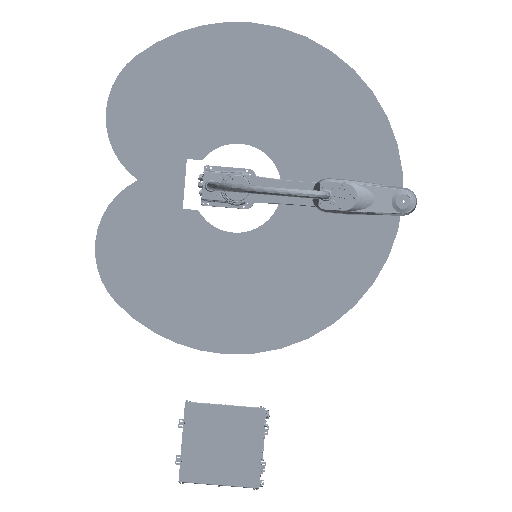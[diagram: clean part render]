
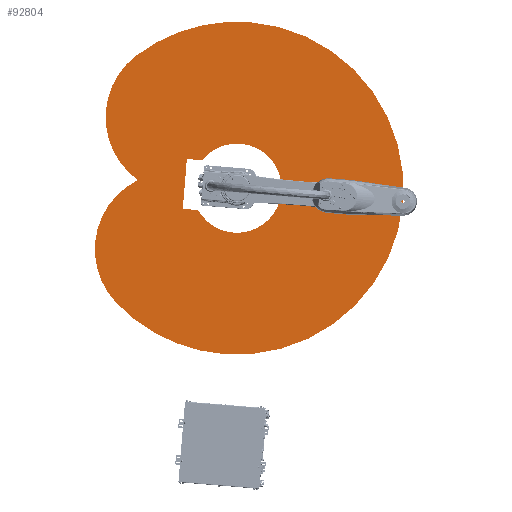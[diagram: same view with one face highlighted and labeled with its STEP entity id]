
A CAD part, left-side view. The second image highlights one B-rep face of the part: STEP entity #92804.
In plain terms, the highlighted planar face has unit normal (-1, 0, 0) as drawn and (0, 1, 0) by its records, which use the part's own axes.
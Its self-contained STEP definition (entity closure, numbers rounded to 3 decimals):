
#5851 = DIRECTION ( 'NONE',  ( 0., 0., -1. ) ) ;
#9800 = EDGE_CURVE ( 'NONE', #416872, #17749, #360652, .T. ) ;
#12896 = CIRCLE ( 'NONE', #216737, 187.5 ) ;
#15422 = CARTESIAN_POINT ( 'NONE',  ( 0., 170., 0. ) ) ;
#15478 = CIRCLE ( 'NONE', #444313, 700. ) ;
#17749 = VERTEX_POINT ( 'NONE', #383170 ) ;
#22960 = DIRECTION ( 'NONE',  ( 0., 1., 0. ) ) ;
#26754 = DIRECTION ( 'NONE',  ( 0., 0., 1. ) ) ;
#27554 = EDGE_CURVE ( 'NONE', #52899, #290477, #323441, .T. ) ;
#35064 = CARTESIAN_POINT ( 'NONE',  ( 418.145, 170., 0. ) ) ;
#37969 = EDGE_LOOP ( 'NONE', ( #105220, #199074, #43693, #170447, #138174 ) ) ;
#38513 = CIRCLE ( 'NONE', #58667, 325. ) ;
#38545 = CARTESIAN_POINT ( 'NONE',  ( 155.342, 170., -105. ) ) ;
#43693 = ORIENTED_EDGE ( 'NONE', *, *, #254679, .T. ) ;
#46174 = DIRECTION ( 'NONE',  ( 0., 1., 0. ) ) ;
#52899 = VERTEX_POINT ( 'NONE', #171419 ) ;
#58667 = AXIS2_PLACEMENT_3D ( 'NONE', #459032, #46174, #124944 ) ;
#62542 = ORIENTED_EDGE ( 'NONE', *, *, #235068, .F. ) ;
#66847 = EDGE_CURVE ( 'NONE', #449164, #140479, #80492, .T. ) ;
#71018 = CARTESIAN_POINT ( 'NONE',  ( 0., 170., 0. ) ) ;
#79991 = CARTESIAN_POINT ( 'NONE',  ( 220., 170., -105. ) ) ;
#80492 = LINE ( 'NONE', #191523, #233486 ) ;
#92804 = ADVANCED_FACE ( 'NONE', ( #102926, #214854 ), #228081, .F. ) ;
#102767 = CARTESIAN_POINT ( 'NONE',  ( 0., 170., 187.5 ) ) ;
#102926 = FACE_OUTER_BOUND ( 'NONE', #37969, .T. ) ;
#105220 = ORIENTED_EDGE ( 'NONE', *, *, #108407, .T. ) ;
#108407 = EDGE_CURVE ( 'NONE', #449383, #416872, #38513, .T. ) ;
#112898 = CARTESIAN_POINT ( 'NONE',  ( 125.462, 170., 139.34 ) ) ;
#118865 = EDGE_CURVE ( 'NONE', #465531, #434274, #15478, .T. ) ;
#119853 = CARTESIAN_POINT ( 'NONE',  ( 250.924, 170., -278.679 ) ) ;
#121213 = CARTESIAN_POINT ( 'NONE',  ( 220., 170., 105. ) ) ;
#124944 = DIRECTION ( 'NONE',  ( 0., 0., -1. ) ) ;
#133793 = AXIS2_PLACEMENT_3D ( 'NONE', #267097, #383888, #309788 ) ;
#136080 = AXIS2_PLACEMENT_3D ( 'NONE', #210368, #22960, #363484 ) ;
#138174 = ORIENTED_EDGE ( 'NONE', *, *, #452558, .T. ) ;
#140479 = VERTEX_POINT ( 'NONE', #79991 ) ;
#143314 = DIRECTION ( 'NONE',  ( 0., 1., 0. ) ) ;
#149151 = AXIS2_PLACEMENT_3D ( 'NONE', #119853, #192209, #154499 ) ;
#154499 = DIRECTION ( 'NONE',  ( 0., 0., 1. ) ) ;
#166781 = VERTEX_POINT ( 'NONE', #102767 ) ;
#169425 = EDGE_CURVE ( 'NONE', #364707, #449164, #335396, .T. ) ;
#170447 = ORIENTED_EDGE ( 'NONE', *, *, #118865, .T. ) ;
#170504 = VECTOR ( 'NONE', #440986, 1000. ) ;
#171419 = CARTESIAN_POINT ( 'NONE',  ( 155.342, 170., -105. ) ) ;
#176625 = CARTESIAN_POINT ( 'NONE',  ( 0., 170., 700. ) ) ;
#186697 = AXIS2_PLACEMENT_3D ( 'NONE', #112898, #262781, #264402 ) ;
#187525 = EDGE_LOOP ( 'NONE', ( #324460, #62542, #227749, #269683, #371753, #378705 ) ) ;
#188241 = VECTOR ( 'NONE', #304924, 1000. ) ;
#188796 = DIRECTION ( 'NONE',  ( 0., 0., 1. ) ) ;
#191523 = CARTESIAN_POINT ( 'NONE',  ( 220., 170., -105. ) ) ;
#192209 = DIRECTION ( 'NONE',  ( 0., 1., 0. ) ) ;
#197184 = AXIS2_PLACEMENT_3D ( 'NONE', #208151, #389436, #432121 ) ;
#199074 = ORIENTED_EDGE ( 'NONE', *, *, #9800, .T. ) ;
#205418 = CARTESIAN_POINT ( 'NONE',  ( 155.342, 170., 105. ) ) ;
#208151 = CARTESIAN_POINT ( 'NONE',  ( 0., 170., 0. ) ) ;
#210368 = CARTESIAN_POINT ( 'NONE',  ( 0., 170., 0. ) ) ;
#214854 = FACE_BOUND ( 'NONE', #187525, .T. ) ;
#216737 = AXIS2_PLACEMENT_3D ( 'NONE', #15422, #355912, #285095 ) ;
#227749 = ORIENTED_EDGE ( 'NONE', *, *, #66847, .F. ) ;
#228081 = PLANE ( 'NONE',  #186697 ) ;
#233486 = VECTOR ( 'NONE', #5851, 1000. ) ;
#235068 = EDGE_CURVE ( 'NONE', #140479, #52899, #394674, .T. ) ;
#241331 = CARTESIAN_POINT ( 'NONE',  ( 468.391, 170., 520.201 ) ) ;
#242448 = CIRCLE ( 'NONE', #197184, 700. ) ;
#248469 = CARTESIAN_POINT ( 'NONE',  ( 0., 170., -187.5 ) ) ;
#251534 = CARTESIAN_POINT ( 'NONE',  ( 0., 170., -700. ) ) ;
#254679 = EDGE_CURVE ( 'NONE', #17749, #465531, #268513, .T. ) ;
#262781 = DIRECTION ( 'NONE',  ( 0., -1., 0. ) ) ;
#264402 = DIRECTION ( 'NONE',  ( 0., 0., -1. ) ) ;
#267097 = CARTESIAN_POINT ( 'NONE',  ( 0., 170., 0. ) ) ;
#268513 = CIRCLE ( 'NONE', #136080, 700. ) ;
#269683 = ORIENTED_EDGE ( 'NONE', *, *, #169425, .F. ) ;
#271036 = EDGE_CURVE ( 'NONE', #290477, #166781, #413549, .T. ) ;
#281293 = CARTESIAN_POINT ( 'NONE',  ( 220., 170., 105. ) ) ;
#285095 = DIRECTION ( 'NONE',  ( 0., 0., 1. ) ) ;
#290477 = VERTEX_POINT ( 'NONE', #248469 ) ;
#304924 = DIRECTION ( 'NONE',  ( -1., 0., 0. ) ) ;
#309748 = AXIS2_PLACEMENT_3D ( 'NONE', #71018, #143314, #26754 ) ;
#309788 = DIRECTION ( 'NONE',  ( 0., 0., 1. ) ) ;
#323441 = CIRCLE ( 'NONE', #309748, 187.5 ) ;
#324460 = ORIENTED_EDGE ( 'NONE', *, *, #27554, .F. ) ;
#335396 = LINE ( 'NONE', #281293, #170504 ) ;
#355912 = DIRECTION ( 'NONE',  ( 0., 1., 0. ) ) ;
#360652 = CIRCLE ( 'NONE', #149151, 325. ) ;
#363484 = DIRECTION ( 'NONE',  ( 0., 0., 1. ) ) ;
#364707 = VERTEX_POINT ( 'NONE', #205418 ) ;
#371753 = ORIENTED_EDGE ( 'NONE', *, *, #473645, .F. ) ;
#378705 = ORIENTED_EDGE ( 'NONE', *, *, #271036, .F. ) ;
#383170 = CARTESIAN_POINT ( 'NONE',  ( 468.391, 170., -520.201 ) ) ;
#383888 = DIRECTION ( 'NONE',  ( 0., 1., 0. ) ) ;
#389436 = DIRECTION ( 'NONE',  ( 0., 1., 0. ) ) ;
#394674 = LINE ( 'NONE', #38545, #188241 ) ;
#413549 = CIRCLE ( 'NONE', #133793, 187.5 ) ;
#414339 = CARTESIAN_POINT ( 'NONE',  ( 0., 170., 0. ) ) ;
#416872 = VERTEX_POINT ( 'NONE', #35064 ) ;
#432121 = DIRECTION ( 'NONE',  ( 0., 0., 1. ) ) ;
#434274 = VERTEX_POINT ( 'NONE', #176625 ) ;
#440986 = DIRECTION ( 'NONE',  ( 1., 0., 0. ) ) ;
#444313 = AXIS2_PLACEMENT_3D ( 'NONE', #414339, #455355, #188796 ) ;
#449164 = VERTEX_POINT ( 'NONE', #121213 ) ;
#449383 = VERTEX_POINT ( 'NONE', #241331 ) ;
#452558 = EDGE_CURVE ( 'NONE', #434274, #449383, #242448, .T. ) ;
#455355 = DIRECTION ( 'NONE',  ( 0., 1., 0. ) ) ;
#459032 = CARTESIAN_POINT ( 'NONE',  ( 250.924, 170., 278.679 ) ) ;
#465531 = VERTEX_POINT ( 'NONE', #251534 ) ;
#473645 = EDGE_CURVE ( 'NONE', #166781, #364707, #12896, .T. ) ;
